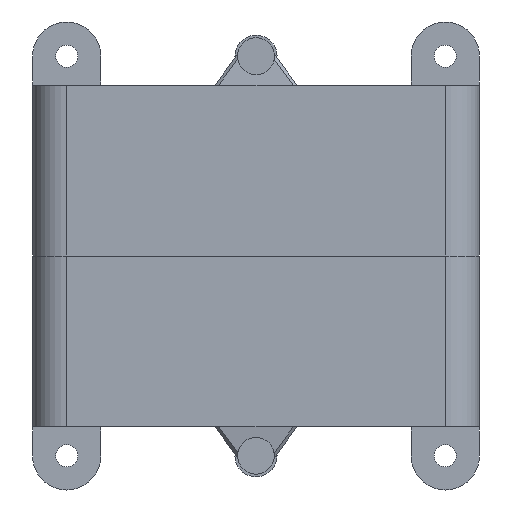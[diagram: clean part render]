
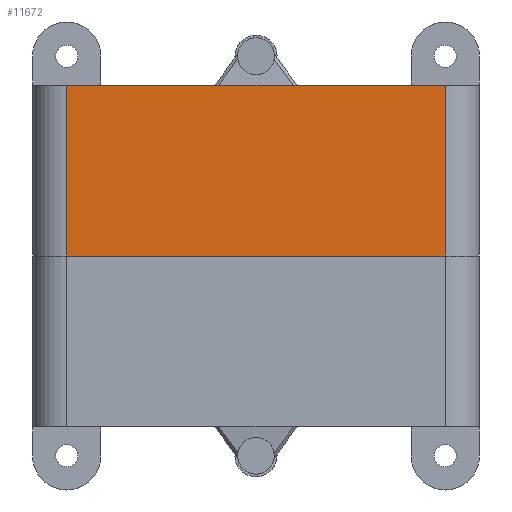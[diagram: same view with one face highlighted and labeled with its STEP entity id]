
A CAD part, front view. The second image highlights one B-rep face of the part: STEP entity #11672.
In plain terms, the highlighted planar face has unit normal (0, -1, 0).
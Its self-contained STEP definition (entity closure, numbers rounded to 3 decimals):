
#289 = VECTOR ( 'NONE', #19195, 1000. ) ;
#770 = CARTESIAN_POINT ( 'NONE',  ( -36., 0., 0. ) ) ;
#4553 = VECTOR ( 'NONE', #14538, 1000. ) ;
#6222 = PLANE ( 'NONE',  #51243 ) ;
#7971 = CARTESIAN_POINT ( 'NONE',  ( 42.5, 0., 0. ) ) ;
#8244 = EDGE_CURVE ( 'NONE', #39462, #19562, #47669, .T. ) ;
#8598 = EDGE_LOOP ( 'NONE', ( #23939, #27224, #34362, #29243 ) ) ;
#9660 = DIRECTION ( 'NONE',  ( 0., 0., 1. ) ) ;
#11538 = CARTESIAN_POINT ( 'NONE',  ( 36., 0., 0. ) ) ;
#11672 = ADVANCED_FACE ( 'NONE', ( #29797 ), #6222, .F. ) ;
#12195 = LINE ( 'NONE', #7971, #30754 ) ;
#13269 = LINE ( 'NONE', #24954, #43255 ) ;
#14538 = DIRECTION ( 'NONE',  ( 0., 0., -1. ) ) ;
#14697 = LINE ( 'NONE', #26898, #289 ) ;
#18622 = EDGE_CURVE ( 'NONE', #48583, #26543, #13269, .T. ) ;
#19195 = DIRECTION ( 'NONE',  ( 1., 0., 0. ) ) ;
#19562 = VERTEX_POINT ( 'NONE', #770 ) ;
#23939 = ORIENTED_EDGE ( 'NONE', *, *, #40202, .T. ) ;
#24954 = CARTESIAN_POINT ( 'NONE',  ( 36., 0., 32.5 ) ) ;
#26543 = VERTEX_POINT ( 'NONE', #36284 ) ;
#26898 = CARTESIAN_POINT ( 'NONE',  ( 42.5, 0., 32.5 ) ) ;
#27224 = ORIENTED_EDGE ( 'NONE', *, *, #18622, .T. ) ;
#29243 = ORIENTED_EDGE ( 'NONE', *, *, #8244, .T. ) ;
#29797 = FACE_OUTER_BOUND ( 'NONE', #8598, .T. ) ;
#30754 = VECTOR ( 'NONE', #44766, 1000. ) ;
#33992 = EDGE_CURVE ( 'NONE', #39462, #26543, #14697, .T. ) ;
#34362 = ORIENTED_EDGE ( 'NONE', *, *, #33992, .F. ) ;
#36284 = CARTESIAN_POINT ( 'NONE',  ( 36., 0., 32.5 ) ) ;
#39462 = VERTEX_POINT ( 'NONE', #39722 ) ;
#39722 = CARTESIAN_POINT ( 'NONE',  ( -36., 0., 32.5 ) ) ;
#40202 = EDGE_CURVE ( 'NONE', #19562, #48583, #12195, .T. ) ;
#41107 = DIRECTION ( 'NONE',  ( 0., 0., 1. ) ) ;
#42251 = DIRECTION ( 'NONE',  ( 0., 1., 0. ) ) ;
#43255 = VECTOR ( 'NONE', #41107, 1000. ) ;
#44766 = DIRECTION ( 'NONE',  ( 1., 0., 0. ) ) ;
#45950 = CARTESIAN_POINT ( 'NONE',  ( 42.5, 0., 32.5 ) ) ;
#47669 = LINE ( 'NONE', #50847, #4553 ) ;
#48583 = VERTEX_POINT ( 'NONE', #11538 ) ;
#50847 = CARTESIAN_POINT ( 'NONE',  ( -36., 0., 0. ) ) ;
#51243 = AXIS2_PLACEMENT_3D ( 'NONE', #45950, #42251, #9660 ) ;
